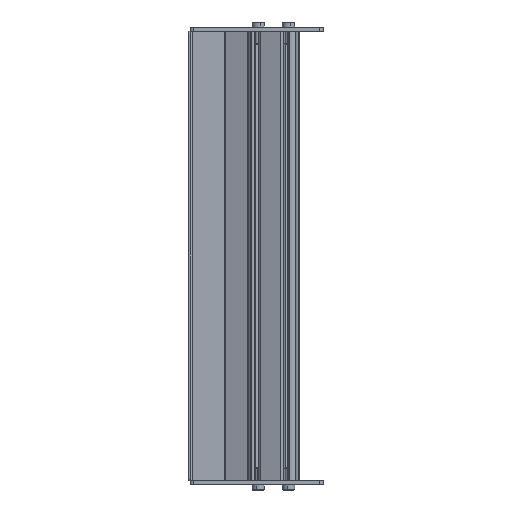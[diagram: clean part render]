
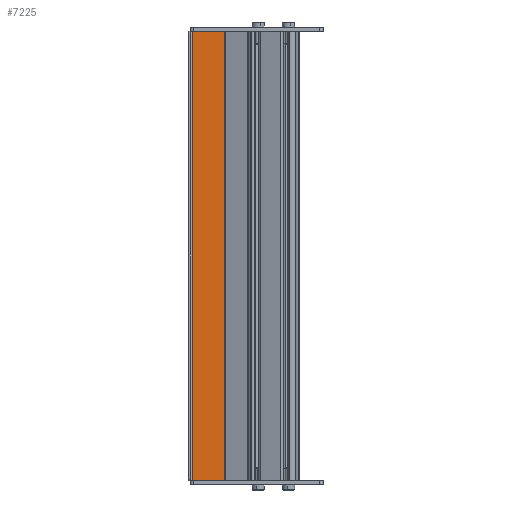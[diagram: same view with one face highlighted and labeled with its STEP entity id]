
A CAD part, left-side view. The second image highlights one B-rep face of the part: STEP entity #7225.
In plain terms, the highlighted planar face has unit normal (-1, 0, 0) as drawn and (1, 0, 0) by its records, which use the part's own axes.
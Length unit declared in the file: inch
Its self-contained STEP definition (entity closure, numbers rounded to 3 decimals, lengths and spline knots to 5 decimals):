
#6388=DIRECTION('',(0.,0.,1.));
#6389=VECTOR('',#6388,12.236);
#6390=CARTESIAN_POINT('',(0.048,0.01693,-6.118));
#6391=LINE('',#6390,#6389);
#6582=DIRECTION('',(0.,-1.,0.));
#6583=VECTOR('',#6582,0.88707);
#6584=CARTESIAN_POINT('',(0.048,0.904,-6.118));
#6585=LINE('',#6584,#6583);
#6586=DIRECTION('',(0.,-1.,0.));
#6587=VECTOR('',#6586,0.88707);
#6588=CARTESIAN_POINT('',(0.048,0.904,6.118));
#6589=LINE('',#6588,#6587);
#6698=DIRECTION('',(0.,0.,-1.));
#6699=VECTOR('',#6698,12.236);
#6700=CARTESIAN_POINT('',(0.048,0.904,6.118));
#6701=LINE('',#6700,#6699);
#6899=CARTESIAN_POINT('',(0.048,0.904,6.118));
#6901=VERTEX_POINT('',#6899);
#6903=CARTESIAN_POINT('',(0.048,0.01693,6.118));
#6905=VERTEX_POINT('',#6903);
#6954=CARTESIAN_POINT('',(0.048,0.904,-6.118));
#6955=VERTEX_POINT('',#6954);
#6964=CARTESIAN_POINT('',(0.048,0.01693,-6.118));
#6965=VERTEX_POINT('',#6964);
#7212=CARTESIAN_POINT('',(0.048,0.,6.118));
#7213=DIRECTION('',(-1.,0.,0.));
#7214=DIRECTION('',(0.,0.,1.));
#7215=AXIS2_PLACEMENT_3D('',#7212,#7213,#7214);
#7216=PLANE('',#7215);
#7217=ORIENTED_EDGE('',*,*,#7205,.T.);
#7218=ORIENTED_EDGE('',*,*,#6999,.T.);
#7220=ORIENTED_EDGE('',*,*,#7219,.F.);
#7222=ORIENTED_EDGE('',*,*,#7221,.T.);
#7223=EDGE_LOOP('',(#7217,#7218,#7220,#7222));
#7224=FACE_OUTER_BOUND('',#7223,.F.);
#6999=EDGE_CURVE('',#6965,#6905,#6391,.T.);
#7205=EDGE_CURVE('',#6955,#6965,#6585,.T.);
#7219=EDGE_CURVE('',#6901,#6905,#6589,.T.);
#7221=EDGE_CURVE('',#6901,#6955,#6701,.T.);
#7225=ADVANCED_FACE('',(#7224),#7216,.F.);
